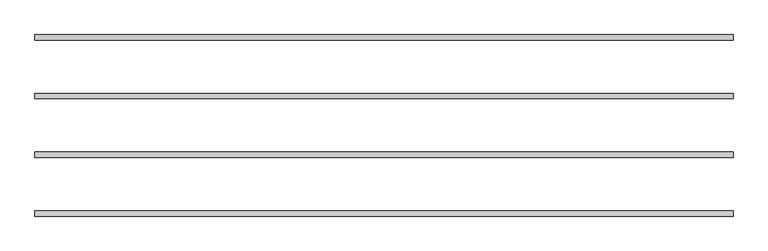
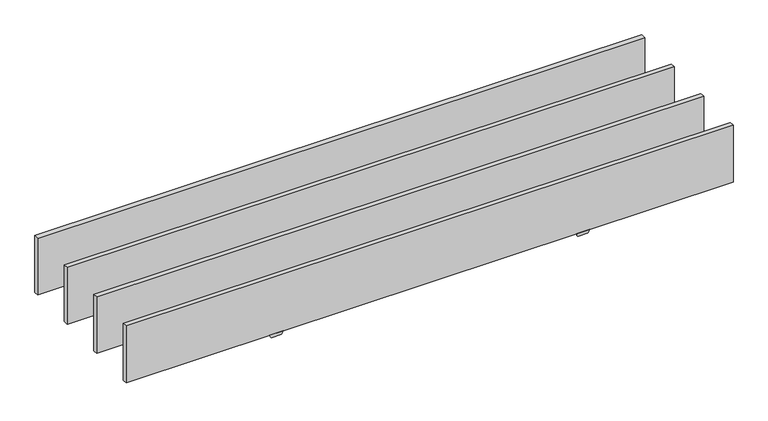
"""IFC4 building model written with IfcOpenShell, lengths in millimetres: proxy geometry."""

from ifc_helpers import new_model, si_unit, frame, origin, origin_with_axes, place, context, project, spatial, polyline, outline, extrude, source, transform, mapped, element, save


def specialty_equipment_3e05f064(model_context):
    return source(origin(), model_context, "Body", "SweptSolid", [
        extrude(outline(polyline([(0.0, 582.6125), (-12.7, 589.9448484), (-12.7, 629.2551516), (0.0, 636.5875), (0.0, 582.6125)])), frame((0.0, 600.59951, 0.0), z_axis=(0.0, 1.0, 0.0), x_axis=(0.0, 0.0, 1.0)), (0.0, 0.0, 1.0), 18.00098),
        extrude(outline(polyline([(0.0, -636.5875), (-12.7, -629.2551516), (-12.7, -589.9448484), (0.0, -582.6125), (0.0, -636.5875)])), frame((0.0, 600.59951, 0.0), z_axis=(0.0, 1.0, 0.0), x_axis=(0.0, 0.0, 1.0)), (0.0, 0.0, 1.0), 18.00098),
        extrude(outline(polyline([(-1206.5, 600.59951), (-1206.5, 618.60049), (1206.5, 618.60049), (1206.5, 600.59951), (-1206.5, 600.59951)])), origin_with_axes(), (0.0, 0.0, 1.0), 238.125),
        extrude(outline(polyline([(0.0, 582.6125), (-12.7, 589.9448484), (-12.7, 629.2551516), (0.0, 636.5875), (0.0, 582.6125)])), frame((0.0, 397.39951, 0.0), z_axis=(0.0, 1.0, 0.0), x_axis=(0.0, 0.0, 1.0)), (0.0, 0.0, 1.0), 18.00098),
        extrude(outline(polyline([(0.0, -636.5875), (-12.7, -629.2551516), (-12.7, -589.9448484), (0.0, -582.6125), (0.0, -636.5875)])), frame((0.0, 397.39951, 0.0), z_axis=(0.0, 1.0, 0.0), x_axis=(0.0, 0.0, 1.0)), (0.0, 0.0, 1.0), 18.00098),
        extrude(outline(polyline([(-1206.5, 397.39951), (-1206.5, 415.40049), (1206.5, 415.40049), (1206.5, 397.39951), (-1206.5, 397.39951)])), origin_with_axes(), (0.0, 0.0, 1.0), 238.125),
        extrude(outline(polyline([(0.0, 582.6125), (-12.7, 589.9448484), (-12.7, 629.2551516), (0.0, 636.5875), (0.0, 582.6125)])), frame((0.0, 194.19951, 0.0), z_axis=(0.0, 1.0, 0.0), x_axis=(0.0, 0.0, 1.0)), (0.0, 0.0, 1.0), 18.00098),
        extrude(outline(polyline([(0.0, -636.5875), (-12.7, -629.2551516), (-12.7, -589.9448484), (0.0, -582.6125), (0.0, -636.5875)])), frame((0.0, 194.19951, 0.0), z_axis=(0.0, 1.0, 0.0), x_axis=(0.0, 0.0, 1.0)), (0.0, 0.0, 1.0), 18.00098),
        extrude(outline(polyline([(-1206.5, 194.19951), (-1206.5, 212.20049), (1206.5, 212.20049), (1206.5, 194.19951), (-1206.5, 194.19951)])), origin_with_axes(), (0.0, 0.0, 1.0), 238.125),
        extrude(outline(polyline([(0.0, 582.6125), (-12.7, 589.9448484), (-12.7, 629.2551516), (0.0, 636.5875), (0.0, 582.6125)])), frame((0.0, -9.00049, 0.0), z_axis=(0.0, 1.0, 0.0), x_axis=(0.0, 0.0, 1.0)), (0.0, 0.0, 1.0), 18.00098),
        extrude(outline(polyline([(0.0, -636.5875), (-12.7, -629.2551516), (-12.7, -589.9448484), (0.0, -582.6125), (0.0, -636.5875)])), frame((0.0, -9.00049, 0.0), z_axis=(0.0, 1.0, 0.0), x_axis=(0.0, 0.0, 1.0)), (0.0, 0.0, 1.0), 18.00098),
        extrude(outline(polyline([(-1206.5, -9.00049), (-1206.5, 9.00049), (1206.5, 9.00049), (1206.5, -9.00049), (-1206.5, -9.00049)])), origin_with_axes(), (0.0, 0.0, 1.0), 238.125),
    ])


if __name__ == "__main__":
    model = new_model("IFC4")
    model_context = context("Model", 3, world=origin())
    ifc_project = project(units=[si_unit("LENGTHUNIT", "METRE", prefix="MILLI")], contexts=[model_context])
    site = spatial("IfcSite", under=ifc_project)
    building = spatial("IfcBuilding", under=site)
    placement = place(None, origin())
    specialty_equipment_shape = specialty_equipment_3e05f064(model_context)
    element("IfcBuildingElementProxy", 1, Name="SE_TIMBER BAFFLE_MULTI-SYSTEM_FB_TURF : 95\" - GRIDLOCK", ObjectType="SE_TIMBER BAFFLE_MULTI-SYSTEM_FB_TURF : 95\" - GRIDLOCK", at=placement, inside=building, context=model_context, shape_type="MappedRepresentation", body=[
        mapped(specialty_equipment_shape, transform((0.0, 0.0, 0.0), x_axis=(1.0, 0.0, 0.0), y_axis=(0.0, 1.0, 0.0), z_axis=(0.0, 0.0, 1.0))),
    ])
    save(model, "model.ifc")
